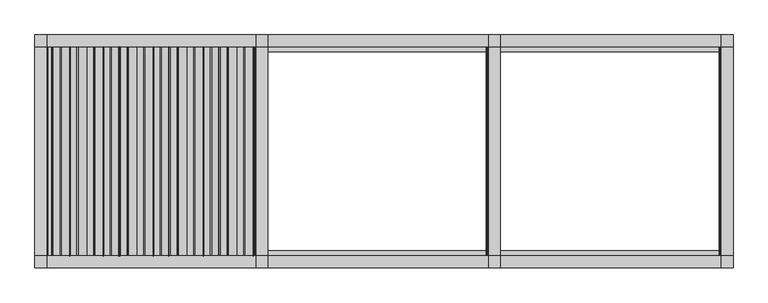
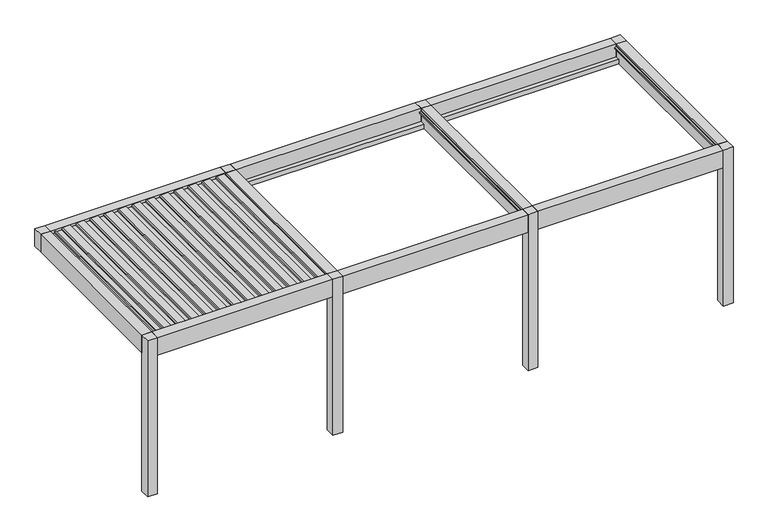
"""IFC4 building model written with IfcOpenShell, lengths in millimetres: proxy geometry, Renson_Amani_Patio_Cover : Renson_Amani_Patio_Cover."""

from ifc_helpers import new_model, si_unit, point, frame, frame_2d, origin, origin_with_axes, place, context, project, spatial, polyline, circle_curve, trimmed, segment, composite_curve, outline, extrude, source, transform, mapped, element, save


def generic_models_a30ff683(model_context):
    return source(origin(), model_context, "Body", "SweptSolid", [
        extrude(outline(composite_curve([segment(polyline([(2483.35, 1073.7289238), (2511.01198, 1076.1490335), (2512.3970364, 1104.984284), (2531.8911096, 1101.5469529), (2526.6075693, 991.549838)]), True, "CONTINUOUS"), segment(trimmed(circle_curve(frame_2d((2511.6248435, 992.26951)), 15.0), [point((2526.6075693, 991.549838))], [point((2514.2295662, 977.4973937))], False, "CARTESIAN"), True, "CONTINUOUS"), segment(polyline([(2514.2295662, 977.4973937), (2495.0, 974.1067023), (2495.0, 886.3709263), (2512.0788237, 883.3594689), (2511.3450182, 868.0824984), (2483.35, 865.6332517), (2483.35, 1073.7289238)]), True, "CONTINUOUS")], self_intersect=False)), frame((0.0, -1350.0, 0.0), z_axis=(0.0, 1.0, 0.0), x_axis=(0.0, 0.0, 1.0)), (0.0, 0.0, 1.0), 2700.0),
        extrude(outline(composite_curve([segment(polyline([(2483.35, 858.7132078), (2511.01198, 861.1333174), (2512.3970364, 889.9685679), (2531.8911096, 886.5312368), (2526.6075693, 776.534122)]), True, "CONTINUOUS"), segment(trimmed(circle_curve(frame_2d((2511.6248435, 777.2537939)), 15.0), [point((2526.6075693, 776.534122))], [point((2514.2295662, 762.4816776))], False, "CARTESIAN"), True, "CONTINUOUS"), segment(polyline([(2514.2295662, 762.4816776), (2495.0, 759.0909863), (2495.0, 671.3552102), (2512.0788237, 668.3437528), (2511.3450182, 653.0667824), (2483.35, 650.6175356), (2483.35, 858.7132078)]), True, "CONTINUOUS")], self_intersect=False)), frame((0.0, -1350.0, 0.0), z_axis=(0.0, 1.0, 0.0), x_axis=(0.0, 0.0, 1.0)), (0.0, 0.0, 1.0), 2700.0),
        extrude(outline(composite_curve([segment(polyline([(2483.35, 643.6974917), (2511.01198, 646.1176014), (2512.3970364, 674.9528519), (2531.8911096, 671.5155208), (2526.6075693, 561.5184059)]), True, "CONTINUOUS"), segment(trimmed(circle_curve(frame_2d((2511.6248435, 562.2380779)), 15.0), [point((2526.6075693, 561.5184059))], [point((2514.2295662, 547.4659616))], False, "CARTESIAN"), True, "CONTINUOUS"), segment(polyline([(2514.2295662, 547.4659616), (2495.0, 544.0752702), (2495.0, 456.3394942), (2512.0788237, 453.3280368), (2511.3450182, 438.0510663), (2483.35, 435.6018196), (2483.35, 643.6974917)]), True, "CONTINUOUS")], self_intersect=False)), frame((0.0, -1350.0, 0.0), z_axis=(0.0, 1.0, 0.0), x_axis=(0.0, 0.0, 1.0)), (0.0, 0.0, 1.0), 2700.0),
        extrude(outline(composite_curve([segment(polyline([(2483.35, 428.6817757), (2511.01198, 431.1018854), (2512.3970364, 459.9371358), (2531.8911096, 456.4998047), (2526.6075693, 346.5026899)]), True, "CONTINUOUS"), segment(trimmed(circle_curve(frame_2d((2511.6248435, 347.2223618)), 15.0), [point((2526.6075693, 346.5026899))], [point((2514.2295662, 332.4502455))], False, "CARTESIAN"), True, "CONTINUOUS"), segment(polyline([(2514.2295662, 332.4502455), (2495.0, 329.0595542), (2495.0, 241.3237782), (2512.0788237, 238.3123207), (2511.3450182, 223.0353503), (2483.35, 220.5861035), (2483.35, 428.6817757)]), True, "CONTINUOUS")], self_intersect=False)), frame((0.0, -1350.0, 0.0), z_axis=(0.0, 1.0, 0.0), x_axis=(0.0, 0.0, 1.0)), (0.0, 0.0, 1.0), 2700.0),
        extrude(outline(composite_curve([segment(polyline([(2483.35, 213.6660597), (2511.01198, 216.0861693), (2512.3970364, 244.9214198), (2531.8911096, 241.4840887), (2526.6075693, 131.4869738)]), True, "CONTINUOUS"), segment(trimmed(circle_curve(frame_2d((2511.6248435, 132.2066458)), 15.0), [point((2526.6075693, 131.4869738))], [point((2514.2295662, 117.4345295))], False, "CARTESIAN"), True, "CONTINUOUS"), segment(polyline([(2514.2295662, 117.4345295), (2495.0, 114.0438381), (2495.0, 26.3080621), (2512.0788237, 23.2966047), (2511.3450182, 8.0196342), (2483.35, 5.5703875), (2483.35, 213.6660597)]), True, "CONTINUOUS")], self_intersect=False)), frame((0.0, -1350.0, 0.0), z_axis=(0.0, 1.0, 0.0), x_axis=(0.0, 0.0, 1.0)), (0.0, 0.0, 1.0), 2700.0),
        extrude(outline(composite_curve([segment(polyline([(2483.35, -1.3496564), (2511.01198, 1.0704533), (2512.3970364, 29.9057037), (2531.8911096, 26.4683726), (2526.6075693, -83.5287422)]), True, "CONTINUOUS"), segment(trimmed(circle_curve(frame_2d((2511.6248435, -82.8090703)), 15.0), [point((2526.6075693, -83.5287422))], [point((2514.2295662, -97.5811866))], False, "CARTESIAN"), True, "CONTINUOUS"), segment(polyline([(2514.2295662, -97.5811866), (2495.0, -100.9718779), (2495.0, -188.7076539), (2512.0788237, -191.7191114), (2511.3450182, -206.9960818), (2483.35, -209.4453286), (2483.35, -1.3496564)]), True, "CONTINUOUS")], self_intersect=False)), frame((0.0, -1350.0, 0.0), z_axis=(0.0, 1.0, 0.0), x_axis=(0.0, 0.0, 1.0)), (0.0, 0.0, 1.0), 2700.0),
        extrude(outline(composite_curve([segment(polyline([(2483.35, -216.3653724), (2511.01198, -213.9452628), (2512.3970364, -185.1100123), (2531.8911096, -188.5473434), (2526.6075693, -298.5444582)]), True, "CONTINUOUS"), segment(trimmed(circle_curve(frame_2d((2511.6248435, -297.8247863)), 15.0), [point((2526.6075693, -298.5444582))], [point((2514.2295662, -312.5969026))], False, "CARTESIAN"), True, "CONTINUOUS"), segment(polyline([(2514.2295662, -312.5969026), (2495.0, -315.987594), (2495.0, -403.72337), (2512.0788237, -406.7348274), (2511.3450182, -422.0117979), (2483.35, -424.4610446), (2483.35, -216.3653724)]), True, "CONTINUOUS")], self_intersect=False)), frame((0.0, -1350.0, 0.0), z_axis=(0.0, 1.0, 0.0), x_axis=(0.0, 0.0, 1.0)), (0.0, 0.0, 1.0), 2700.0),
        extrude(outline(composite_curve([segment(polyline([(2483.35, -431.3810885), (2511.01198, -428.9609788), (2512.3970364, -400.1257284), (2531.8911096, -403.5630594), (2526.6075693, -513.5601743)]), True, "CONTINUOUS"), segment(trimmed(circle_curve(frame_2d((2511.6248435, -512.8405024)), 15.0), [point((2526.6075693, -513.5601743))], [point((2514.2295662, -527.6126187))], False, "CARTESIAN"), True, "CONTINUOUS"), segment(polyline([(2514.2295662, -527.6126187), (2495.0, -531.00331), (2495.0, -618.739086), (2512.0788237, -621.7505434), (2511.3450182, -637.0275139), (2483.35, -639.4767606), (2483.35, -431.3810885)]), True, "CONTINUOUS")], self_intersect=False)), frame((0.0, -1350.0, 0.0), z_axis=(0.0, 1.0, 0.0), x_axis=(0.0, 0.0, 1.0)), (0.0, 0.0, 1.0), 2700.0),
        extrude(outline(composite_curve([segment(polyline([(2483.35, -646.3968045), (2511.01198, -643.9766949), (2512.3970364, -615.1414444), (2531.8911096, -618.5787755), (2526.6075693, -728.5758903)]), True, "CONTINUOUS"), segment(trimmed(circle_curve(frame_2d((2511.6248435, -727.8562184)), 15.0), [point((2526.6075693, -728.5758903))], [point((2514.2295662, -742.6283347))], False, "CARTESIAN"), True, "CONTINUOUS"), segment(polyline([(2514.2295662, -742.6283347), (2495.0, -746.019026), (2495.0, -833.7548021), (2512.0788237, -836.7662595), (2511.3450182, -852.04323), (2483.35, -854.4924767), (2483.35, -646.3968045)]), True, "CONTINUOUS")], self_intersect=False)), frame((0.0, -1350.0, 0.0), z_axis=(0.0, 1.0, 0.0), x_axis=(0.0, 0.0, 1.0)), (0.0, 0.0, 1.0), 2700.0),
        extrude(outline(composite_curve([segment(polyline([(2483.35, -861.4125206), (2511.01198, -858.9924109), (2512.3970364, -830.1571605), (2531.8911096, -833.5944915), (2526.6075693, -943.5916064)]), True, "CONTINUOUS"), segment(trimmed(circle_curve(frame_2d((2511.6248435, -942.8719345)), 15.0), [point((2526.6075693, -943.5916064))], [point((2514.2295662, -957.6440508))], False, "CARTESIAN"), True, "CONTINUOUS"), segment(polyline([(2514.2295662, -957.6440508), (2495.0, -961.0347421), (2495.0, -1048.7705181), (2512.0788237, -1051.7819755), (2511.3450182, -1067.058946), (2483.35, -1069.5081927), (2483.35, -861.4125206)]), True, "CONTINUOUS")], self_intersect=False)), frame((0.0, -1350.0, 0.0), z_axis=(0.0, 1.0, 0.0), x_axis=(0.0, 0.0, 1.0)), (0.0, 0.0, 1.0), 2700.0),
        extrude(outline(composite_curve([segment(polyline([(2483.35, 1288.7446399), (2511.01198, 1291.1647495), (2512.3970364, 1320.0), (2531.8911096, 1316.5626689), (2526.6075693, 1206.5655541)]), True, "CONTINUOUS"), segment(trimmed(circle_curve(frame_2d((2511.6248435, 1207.285226)), 15.0), [point((2526.6075693, 1206.5655541))], [point((2514.2295662, 1192.5131097))], False, "CARTESIAN"), True, "CONTINUOUS"), segment(polyline([(2514.2295662, 1192.5131097), (2495.0, 1189.1224184), (2495.0, 1101.3866423), (2512.0788237, 1098.3751849), (2511.3450182, 1083.0982144), (2483.35, 1080.6489677), (2483.35, 1288.7446399)]), True, "CONTINUOUS")], self_intersect=False)), frame((0.0, -1350.0, 0.0), z_axis=(0.0, 1.0, 0.0), x_axis=(0.0, 0.0, 1.0)), (0.0, 0.0, 1.0), 2700.0),
        extrude(outline(composite_curve([segment(polyline([(2483.35, -1076.4282366), (2511.01198, -1074.008127), (2512.3970364, -1045.1728765), (2531.8911096, -1048.6102076), (2526.6075693, -1158.6073224)]), True, "CONTINUOUS"), segment(trimmed(circle_curve(frame_2d((2511.6248435, -1157.8876505)), 15.0), [point((2526.6075693, -1158.6073224))], [point((2514.2295662, -1172.6597668))], False, "CARTESIAN"), True, "CONTINUOUS"), segment(polyline([(2514.2295662, -1172.6597668), (2495.0, -1176.0504581), (2495.0, -1263.7862342), (2512.0788237, -1266.7976916), (2511.3450182, -1282.0746621), (2483.35, -1284.5239088), (2483.35, -1076.4282366)]), True, "CONTINUOUS")], self_intersect=False)), frame((0.0, -1350.0, 0.0), z_axis=(0.0, 1.0, 0.0), x_axis=(0.0, 0.0, 1.0)), (0.0, 0.0, 1.0), 2700.0),
        extrude(outline(polyline([(7500.0, -1350.0), (7500.0, -1500.0), (7350.0, -1500.0), (7350.0, -1350.0), (7500.0, -1350.0)])), origin_with_axes(), (0.0, 0.0, 1.0), 2535.0),
        extrude(outline(polyline([(7500.0, 1500.0), (7500.0, 1350.0), (7350.0, 1350.0), (7350.0, 1500.0), (7500.0, 1500.0)])), frame((0.0, 0.0, 2250.0), z_axis=(0.0, 0.0, 1.0), x_axis=(1.0, 0.0, 0.0)), (0.0, 0.0, 1.0), 285.0),
        extrude(outline(polyline([(4500.0, 1350.0), (4350.0, 1350.0), (4350.0, 1500.0), (4500.0, 1500.0), (4500.0, 1350.0)])), frame((0.0, 0.0, 2250.0), z_axis=(0.0, 0.0, 1.0), x_axis=(1.0, 0.0, 0.0)), (0.0, 0.0, 1.0), 285.0),
        extrude(outline(polyline([(1500.0, 1500.0), (1500.0, 1350.0), (1350.0, 1350.0), (1350.0, 1500.0), (1500.0, 1500.0)])), frame((0.0, 0.0, 2250.0), z_axis=(0.0, 0.0, 1.0), x_axis=(1.0, 0.0, 0.0)), (0.0, 0.0, 1.0), 285.0),
        extrude(outline(polyline([(-1350.0, 1500.0), (-1350.0, 1350.0), (-1500.0, 1350.0), (-1500.0, 1500.0), (-1350.0, 1500.0)])), frame((0.0, 0.0, 2250.0), z_axis=(0.0, 0.0, 1.0), x_axis=(1.0, 0.0, 0.0)), (0.0, 0.0, 1.0), 285.0),
        extrude(outline(polyline([(4500.0, -1350.0), (4500.0, -1500.0), (4350.0, -1500.0), (4350.0, -1350.0), (4500.0, -1350.0)])), origin_with_axes(), (0.0, 0.0, 1.0), 2535.0),
        extrude(outline(polyline([(1500.0, -1350.0), (1500.0, -1500.0), (1350.0, -1500.0), (1350.0, -1350.0), (1500.0, -1350.0)])), origin_with_axes(), (0.0, 0.0, 1.0), 2535.0),
        extrude(outline(polyline([(-1350.0, -1350.0), (-1350.0, -1500.0), (-1500.0, -1500.0), (-1500.0, -1350.0), (-1350.0, -1350.0)])), origin_with_axes(), (0.0, 0.0, 1.0), 2535.0),
        extrude(outline(polyline([(-1350.0, 2535.0), (-1350.0, 2322.0), (-1280.0000001, 2322.0), (-1280.0000001, 2250.0), (-1500.0, 2250.0), (-1500.0, 2535.0), (-1350.0, 2535.0)])), frame((4500.0, 0.0, 0.0), z_axis=(1.0, 0.0, 0.0), x_axis=(0.0, 1.0, 0.0)), (0.0, 0.0, 1.0), 2850.0),
        extrude(outline(polyline([(1500.0, 2250.0), (1280.0000001, 2250.0), (1280.0000001, 2322.0), (1350.0, 2322.0), (1350.0, 2535.0), (1500.0, 2535.0), (1500.0, 2250.0)])), frame((4500.0, 0.0, 0.0), z_axis=(1.0, 0.0, 0.0), x_axis=(0.0, 1.0, 0.0)), (0.0, 0.0, 1.0), 2850.0),
        extrude(outline(polyline([(2535.0, 7500.0), (2535.0, 7350.0), (2504.6823598, 7350.0), (2504.2449277, 7345.0), (2496.400763, 7345.0), (2480.6555802, 7329.2544156), (2480.6555802, 7319.9090324), (2466.6559373, 7323.6603211), (2466.6559373, 7350.0), (2250.0, 7350.0), (2250.0, 7500.0), (2535.0, 7500.0)])), frame((0.0, -1350.0, 0.0), z_axis=(0.0, 1.0, 0.0), x_axis=(0.0, 0.0, 1.0)), (0.0, 0.0, 1.0), 2700.0),
        extrude(outline(polyline([(-1350.0, 2535.0), (-1350.0, 2322.0), (-1280.0000001, 2322.0), (-1280.0000001, 2250.0), (-1500.0, 2250.0), (-1500.0, 2535.0), (-1350.0, 2535.0)])), frame((1500.0, 0.0, 0.0), z_axis=(1.0, 0.0, 0.0), x_axis=(0.0, 1.0, 0.0)), (0.0, 0.0, 1.0), 2850.0),
        extrude(outline(polyline([(1500.0, 2250.0), (1280.0000001, 2250.0), (1280.0000001, 2322.0), (1350.0, 2322.0), (1350.0, 2535.0), (1500.0, 2535.0), (1500.0, 2250.0)])), frame((1500.0, 0.0, 0.0), z_axis=(1.0, 0.0, 0.0), x_axis=(0.0, 1.0, 0.0)), (0.0, 0.0, 1.0), 2850.0),
        extrude(outline(polyline([(2535.0, 4500.0), (2535.0, 4350.0), (2504.6823598, 4350.0), (2504.2449277, 4345.0), (2496.400763, 4345.0), (2480.6555802, 4329.2544156), (2480.6555802, 4319.9090324), (2466.6559373, 4323.6603211), (2466.6559373, 4350.0), (2250.0, 4350.0), (2250.0, 4500.0), (2535.0, 4500.0)])), frame((0.0, -1350.0, 0.0), z_axis=(0.0, 1.0, 0.0), x_axis=(0.0, 0.0, 1.0)), (0.0, 0.0, 1.0), 2700.0),
        extrude(outline(polyline([(2466.6559373, -1350.0), (2466.6559373, -1290.0), (2480.6555802, -1286.2487113), (2480.6555802, -1329.5940945), (2496.400763, -1345.0), (2504.2449277, -1345.0), (2504.6823598, -1350.0), (2466.6559373, -1350.0)])), frame((0.0, -1350.0, 0.0), z_axis=(0.0, 1.0, 0.0), x_axis=(0.0, 0.0, 1.0)), (0.0, 0.0, 1.0), 2700.0),
        extrude(outline(polyline([(-1350.0, -1350.0), (-1500.0, -1350.0), (-1500.0, 1350.0), (-1350.0, 1350.0), (-1350.0, -1350.0)])), frame((0.0, 0.0, 2250.0), z_axis=(0.0, 0.0, 1.0), x_axis=(1.0, 0.0, 0.0)), (0.0, 0.0, 1.0), 285.0),
        extrude(outline(polyline([(2535.0, 1500.0), (2535.0, 1350.0), (2504.6904658, 1350.0), (2504.2449277, 1345.0), (2496.400763, 1345.0), (2480.6555802, 1329.2544156), (2480.6555802, 1319.9090324), (2466.6559373, 1323.6603211), (2466.6559373, 1350.0), (2250.0, 1350.0), (2250.0, 1500.0), (2535.0, 1500.0)])), frame((0.0, -1350.0, 0.0), z_axis=(0.0, 1.0, 0.0), x_axis=(0.0, 0.0, 1.0)), (0.0, 0.0, 1.0), 2700.0),
        extrude(outline(polyline([(-1350.0, 2535.0), (-1350.0, 2322.0), (-1280.0000001, 2322.0), (-1280.0000001, 2250.0), (-1500.0, 2250.0), (-1500.0, 2535.0), (-1350.0, 2535.0)])), frame((-1350.0, 0.0, 0.0), z_axis=(1.0, 0.0, 0.0), x_axis=(0.0, 1.0, 0.0)), (0.0, 0.0, 1.0), 2700.0),
        extrude(outline(polyline([(1500.0, 2250.0), (1280.0000001, 2250.0), (1280.0000001, 2322.0), (1350.0, 2322.0), (1350.0, 2535.0), (1500.0, 2535.0), (1500.0, 2250.0)])), frame((-1350.0, 0.0, 0.0), z_axis=(1.0, 0.0, 0.0), x_axis=(0.0, 1.0, 0.0)), (0.0, 0.0, 1.0), 2700.0),
    ])


if __name__ == "__main__":
    model = new_model("IFC4")
    model_context = context("Model", 3, world=origin())
    ifc_project = project(units=[si_unit("LENGTHUNIT", "METRE", prefix="MILLI")], contexts=[model_context])
    site = spatial("IfcSite", under=ifc_project)
    building = spatial("IfcBuilding", under=site)
    placement = place(None, origin())
    generic_models_shape = generic_models_a30ff683(model_context)
    element("IfcBuildingElementProxy", 1, Name="Renson_Amani_Patio_Cover : Renson_Amani_Patio_Cover", ObjectType="Renson_Amani_Patio_Cover : Renson_Amani_Patio_Cover", at=placement, inside=building, context=model_context, shape_type="MappedRepresentation", body=[
        mapped(generic_models_shape, transform((0.0, 0.0, 0.0), x_axis=(1.0, 0.0, 0.0), y_axis=(0.0, 1.0, 0.0), z_axis=(0.0, 0.0, 1.0))),
    ])
    save(model, "model.ifc")
